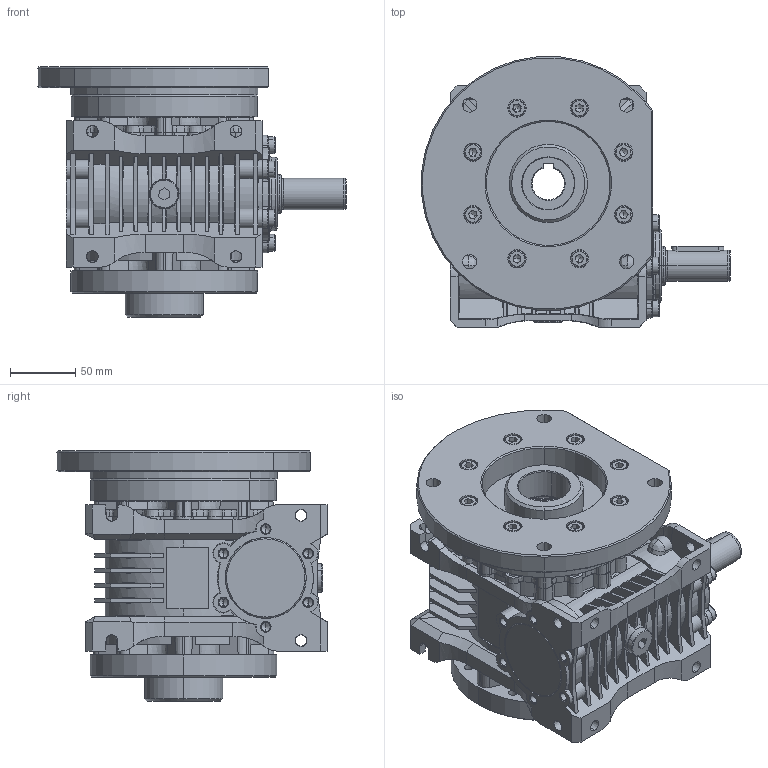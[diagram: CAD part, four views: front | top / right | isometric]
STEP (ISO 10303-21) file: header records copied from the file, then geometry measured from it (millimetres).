
FILE_DESCRIPTION (( 'STEP AP203' ), '1' );
FILE_NAME ('MRP-63_WBS-SO_2-KM_2-3D.STEP', '2024-10-29T06:20:33', ( '' ), ( '' ), 'SwSTEP 2.0', 'SolidWorks 2022', '' );
FILE_SCHEMA (( 'CONFIG_CONTROL_DESIGN' ));
Products named in the file (1): MRP-63_WBS-SO_2-KM_2-3D
Bounding box: 236.83 x 207.13 x 192 mm (x, y, z)
Volume: 2866635.6 mm3; surface area: 431732.7 mm2
Topology: 1 solids, 91 shells, 3441 faces, 8451 edges, 5203 vertices
Faces by surface type: plane 1218, cone 932, cylinder 657, torus 350, bspline 246, sphere 38
Entity records: 108604 total; most frequent: CARTESIAN_POINT 29532, ORIENTED_EDGE 16642, DIRECTION 16640, EDGE_CURVE 8321, AXIS2_PLACEMENT_3D 6519, VERTEX_POINT 5203, EDGE_LOOP 3690, VECTOR 3602
